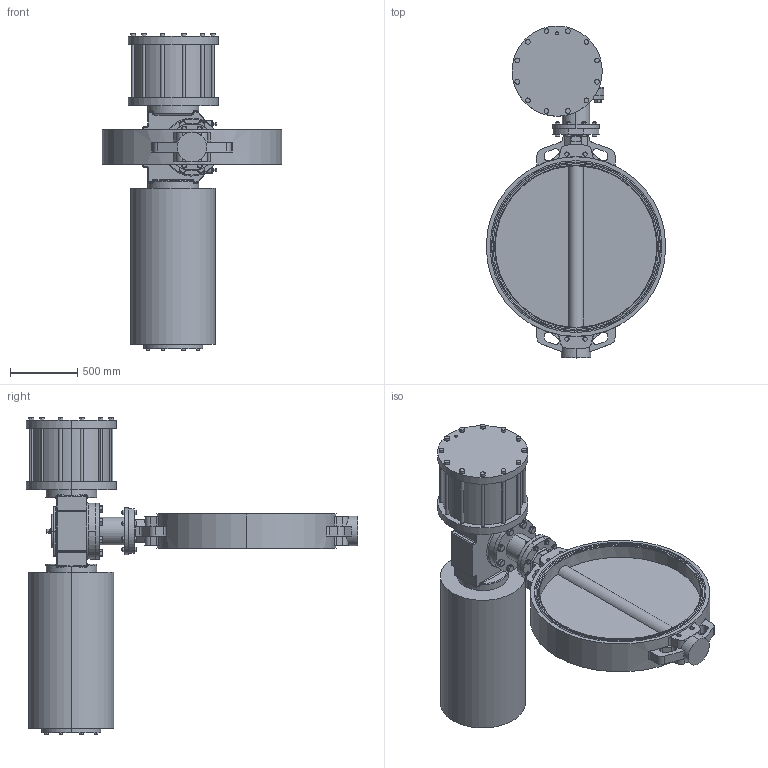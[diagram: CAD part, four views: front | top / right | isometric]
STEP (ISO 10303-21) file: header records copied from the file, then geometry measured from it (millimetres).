
FILE_DESCRIPTION (( 'STEP AP214' ), '1' );
FILE_NAME ('67416.step', '2020-10-23T12:40:02', ( '' ), ( '' ), 'SwSTEP 2.0', 'SolidWorks 2019', '' );
FILE_SCHEMA (( 'AUTOMOTIVE_DESIGN' ));
Length unit declared in the file: millimetre
Products named in the file (12): 6kt-Mu DIN 934_M20; 6kt-Schr DIN 933_M20x100; 67416; 6kt-Schr DIN 933_M30x70; Passfeder DIN 6885 A_28_16x100; U-Scheibe DIN 125 A_M20; 67417; TW20-1200_M01; 67701; SY01F35-600 SR6; U-Scheibe DIN 125 A_M30; Passfeder DIN 6885 B_40_22x140
Assembly tree (54 placements, depth 2):
  67416
    TW20-1200_M01
    SY01F35-600 SR6
    U-Scheibe DIN 125 A_M20  x16
    6kt-Schr DIN 933_M20x100  x8
    67701
    6kt-Mu DIN 934_M20  x8
    6kt-Schr DIN 933_M30x70  x8
    U-Scheibe DIN 125 A_M30  x8
    67417
    Passfeder DIN 6885 B_40_22x140
    Passfeder DIN 6885 A_28_16x100
Bounding box: 1334 x 2464 x 2355 mm (x, y, z)
Volume: 755078157.2 mm3; surface area: 13111626.9 mm2
Topology: 56 solids, 56 shells, 1512 faces, 3407 edges, 2090 vertices
Faces by surface type: plane 596, cylinder 560, cone 231, bspline 67, torus 58
Entity records: 32358 total; most frequent: CARTESIAN_POINT 10587, DIRECTION 4444, ORIENTED_EDGE 4026, EDGE_CURVE 2013, AXIS2_PLACEMENT_3D 1803, VERTEX_POINT 1270, EDGE_LOOP 995, CIRCLE 965
